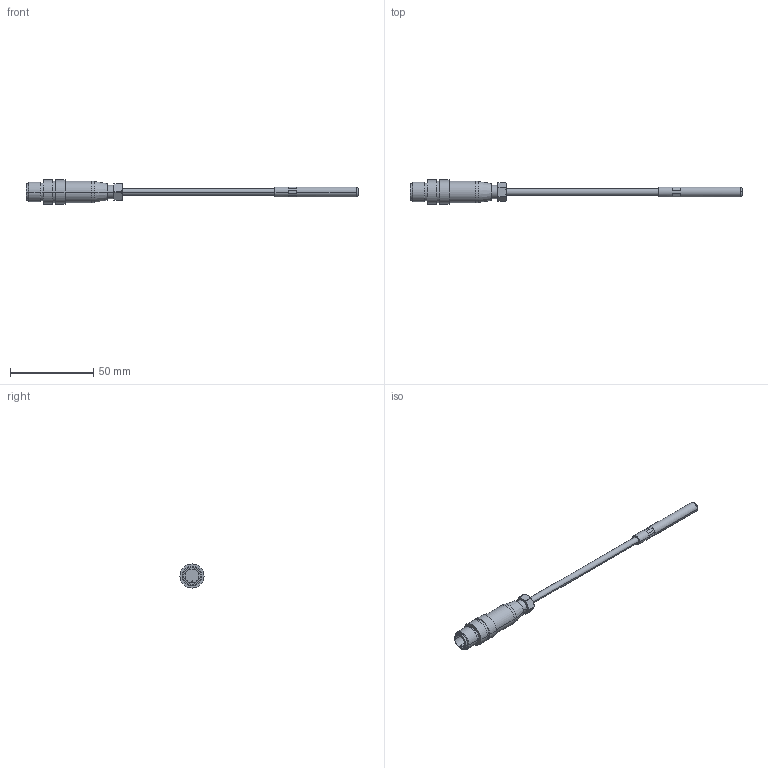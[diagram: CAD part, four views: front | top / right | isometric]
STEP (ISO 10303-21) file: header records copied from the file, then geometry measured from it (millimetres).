
FILE_DESCRIPTION( ( '' ), '1' );
FILE_NAME( '//partserver002.servicenet/client_exchange/iodir/jobs/output/wkb6703388_no3/STEP/ts2256_2_03.stp', '2007-04-02T05:15:39', ( '' ), ( '' ), ' ', ' ', ' ' );
FILE_SCHEMA( ( 'CONFIG_CONTROL_DESIGN' ) );
Length unit declared in the file: millimetre
Products named in the file (1): 1
Bounding box: 200 x 14.5 x 14.5 mm (x, y, z)
Volume: 9028.5 mm3; surface area: 5064.1 mm2
Topology: 1 solids, 1 shells, 89 faces, 201 edges, 129 vertices
Faces by surface type: plane 40, cylinder 31, cone 16, torus 2
Entity records: 2550 total; most frequent: DIRECTION 472, CARTESIAN_POINT 444, ORIENTED_EDGE 402, EDGE_CURVE 201, AXIS2_PLACEMENT_3D 193, VERTEX_POINT 129, EDGE_LOOP 104, CIRCLE 103
